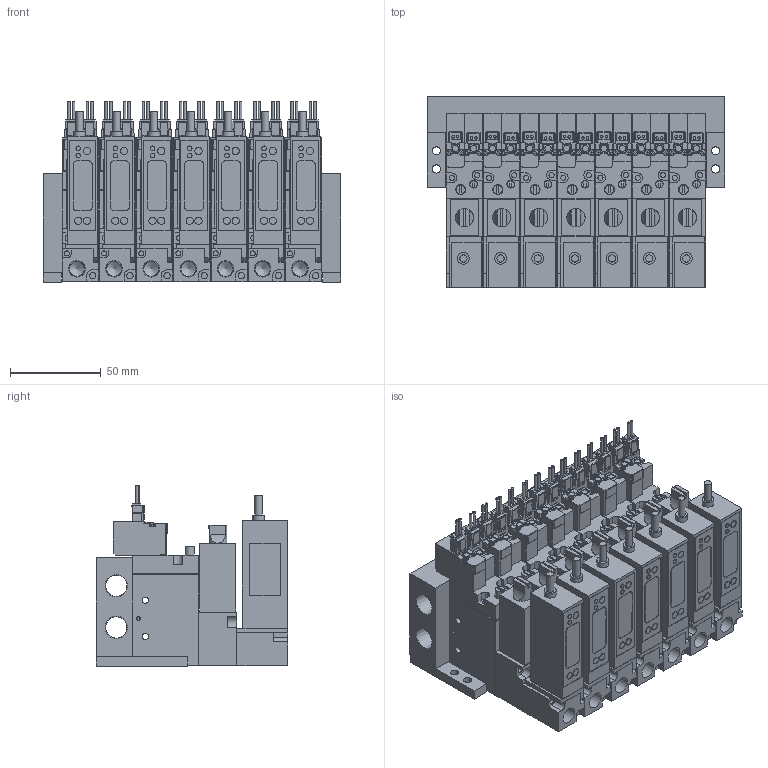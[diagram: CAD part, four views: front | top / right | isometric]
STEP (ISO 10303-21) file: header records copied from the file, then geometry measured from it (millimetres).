
FILE_DESCRIPTION(('STEP AP203'),'1');
FILE_NAME('BMPV32M2NV(R)G25AL707.stp','2025-06-17T00:52:09',(' '),(' '),'Spatial InterOp 3D',' ',' ');
FILE_SCHEMA(('CONFIG_CONTROL_DESIGN'));
Length unit declared in the file: millimetre
Products named in the file (88): BMPV32M2NV(R)G25AL707; Pressure sensor VGL; ___-3(Rc); Filter Assy; __; _____; ___ ___; MB BRACKET; BMPV32 MB07; ___; upper plate-A; ______; ____; VACUUM VALVE FUNCTION MPV42-A; UV280-4E
Assembly tree (87 placements, depth 2):
  BMPV32M2NV(R)G25AL707
    Pressure sensor VGL
    ___-3(Rc)
    Filter Assy
    __
    _____
    ___ ___
    Pressure sensor VGL
    ___-3(Rc)
    Filter Assy
    __
    _____
    ___ ___
    Pressure sensor VGL
    ___-3(Rc)
    Filter Assy
    __
    _____
    ___ ___
    Pressure sensor VGL
    ___-3(Rc)
    Filter Assy
    __
    _____
    ___ ___
    Pressure sensor VGL
    ___-3(Rc)
    Filter Assy
    __
    _____
    ___ ___
    Pressure sensor VGL
    ___-3(Rc)
    Filter Assy
    __
    _____
    ___ ___
    MB BRACKET
    MB BRACKET
    BMPV32 MB07
    Pressure sensor VGL
    ___-3(Rc)
    Filter Assy
    __
    _____
    ___ ___
    ___
    upper plate-A
    ______
    ____
    VACUUM VALVE FUNCTION MPV42-A
    ___
    upper plate-A
    ______
    ____
    VACUUM VALVE FUNCTION MPV42-A
    ___
    upper plate-A
    ______
    ____
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Bounding box: 164 x 105.5 x 99.75 mm (x, y, z)
Volume: 925288.7 mm3; surface area: 300070 mm2
Topology: 87 solids, 87 shells, 2805 faces, 7282 edges, 4838 vertices
Faces by surface type: plane 2240, cylinder 508, cone 57
Full cylindrical faces by diameter (mm): 1.4 x28, 1.8 x14, 2 x14, 2.5 x32, 2.8 x28, 3 x28, 3.5 x74, 4 x35, 4.2 x7, 4.5 x4, 5 x7, 5.5 x7, 6.5 x13, 8.2 x7, 8.759 x7, 11.776 x2
Entity records: 87233 total; most frequent: CARTESIAN_POINT 14890, DIRECTION 13755, ORIENTED_EDGE 13506, EDGE_CURVE 6753, LINE 5481, VECTOR 5481, VERTEX_POINT 4726, AXIS2_PLACEMENT_3D 4137
